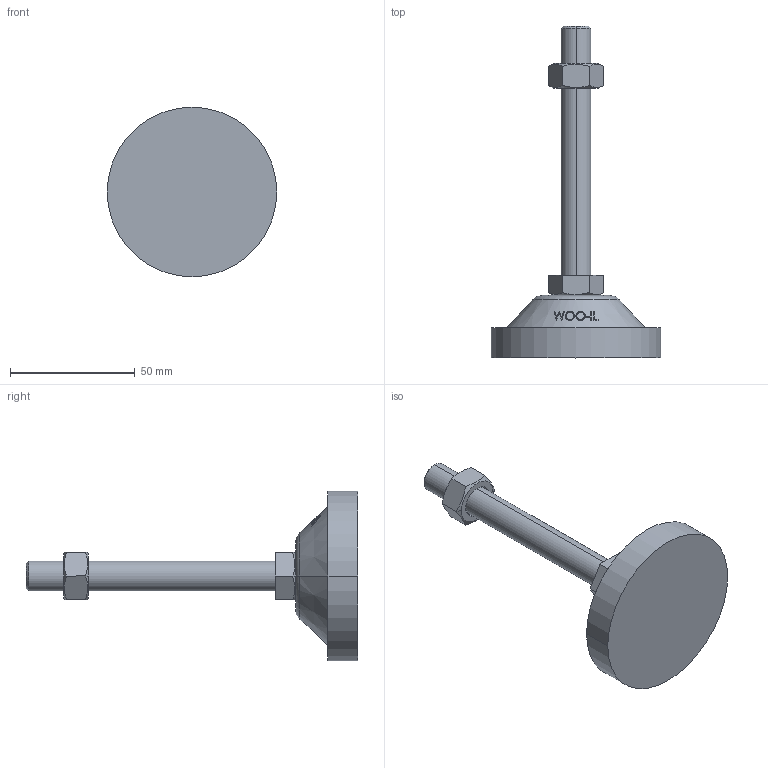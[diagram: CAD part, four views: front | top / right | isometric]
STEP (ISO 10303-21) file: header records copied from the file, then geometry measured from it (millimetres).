
FILE_DESCRIPTION (( 'STEP AP214' ), '1' );
FILE_NAME ('RL68-M12-100.step', '2021-01-06T08:16:45', ( '' ), ( '' ), 'SwSTEP 2.0', 'SolidWorks 2019', '' );
FILE_SCHEMA (( 'AUTOMOTIVE_DESIGN' ));
Length unit declared in the file: millimetre
Products named in the file (1): RL68-M12-100
Bounding box: 68 x 133 x 68 mm (x, y, z)
Volume: 78992.4 mm3; surface area: 16818.2 mm2
Topology: 3 solids, 3 shells, 93 faces, 217 edges, 140 vertices
Faces by surface type: plane 47, cone 22, bspline 16, cylinder 6, torus 2
Entity records: 4047 total; most frequent: CARTESIAN_POINT 2015, ORIENTED_EDGE 434, DIRECTION 349, EDGE_CURVE 217, VERTEX_POINT 140, AXIS2_PLACEMENT_3D 134, EDGE_LOOP 105, ADVANCED_FACE 93
